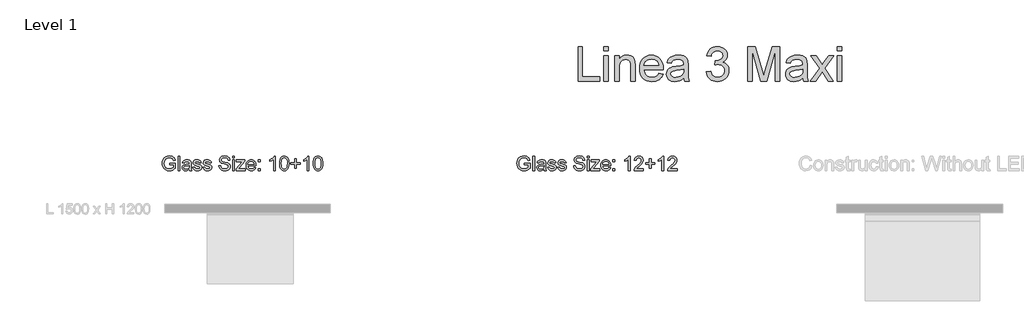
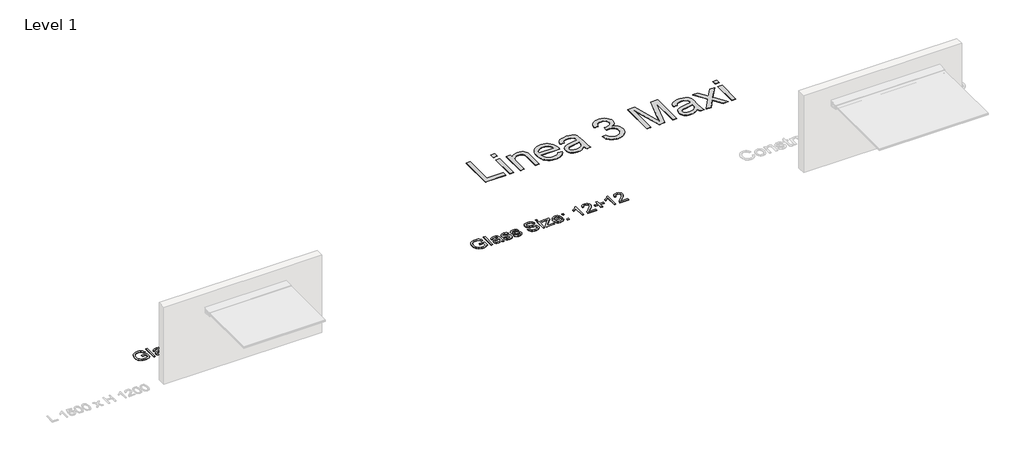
# One storey, part 6 of 7: 3 proxies.
"""IFC4 building model written with IfcOpenShell, lengths in millimetres."""

from ifc_helpers import new_model, si_unit, origin, origin_with_axes, place, context, project, spatial, polyline, outline, extrude, element, save

model = new_model("IFC4")

# Units and contexts
model_context = context("Model", 3, world=origin())
ifc_project = project(units=[si_unit("LENGTHUNIT", "METRE", prefix="MILLI")], contexts=[model_context])

# Site, building, storey
site = spatial("IfcSite", under=ifc_project)
building = spatial("IfcBuilding", under=site)
storey = spatial("IfcBuildingStorey", under=building, Name="Level 1", Elevation=0.0)

# Proxies
placement = place(None, origin())
element("IfcBuildingElementProxy", 1, Name="600mm Arial", ObjectType="600mm Arial", at=placement, inside=storey, context=model_context, shape_type="SweptSolid", body=[
    extrude(outline(polyline([(11563.2291766, 2864.8889799), (11563.2291766, 3467.6268408), (11638.5714092, 3467.6268408), (11638.5714092, 2940.2312125), (11939.9403397, 2940.2312125), (11939.9403397, 2864.8889799), (11563.2291766, 2864.8889799)])), origin_with_axes(), (0.0, 0.0, 1.0), 5.0),
    extrude(outline(polyline([(12015.2825723, 2864.8889799), (12015.2825723, 3307.5245965), (12090.6248049, 3307.5245965), (12090.6248049, 2864.8889799), (12015.2825723, 2864.8889799)])), origin_with_axes(), (0.0, 0.0, 1.0), 5.0),
    extrude(outline(polyline([(12015.2825723, 3392.2846082), (12015.2825723, 3467.6268408), (12090.6248049, 3467.6268408), (12090.6248049, 3392.2846082), (12015.2825723, 3392.2846082)])), origin_with_axes(), (0.0, 0.0, 1.0), 5.0),
    extrude(outline(polyline([(12203.6381538, 2864.8889799), (12203.6381538, 3307.5245965), (12278.9803864, 3307.5245965), (12278.9803864, 3245.7204213), (12305.1551904, 3276.8800263), (12336.5907069, 3299.136887), (12373.2869359, 3312.4910034), (12415.2438774, 3316.9423756), (12452.3815649, 3313.3555261), (12486.3922553, 3302.5949777), (12514.7559571, 3286.0034998), (12534.9526787, 3264.9238614), (12548.656283, 3239.4112451), (12557.5406332, 3209.520833), (12561.5137587, 3136.6801979), (12561.5137587, 2864.8889799), (12486.1715261, 2864.8889799), (12486.1715261, 3126.5266549), (12484.0010223, 3165.4853581), (12477.489511, 3193.1868724), (12465.4781639, 3213.034106), (12446.8081526, 3228.4299675), (12422.8774288, 3238.3075991), (12395.0839441, 3241.6001429), (12372.2062825, 3239.7515359), (12350.9564988, 3234.2057148), (12331.3345929, 3224.9626797), (12313.3405648, 3212.0224305), (12298.3079868, 3193.9134393), (12287.570431, 3169.1641781), (12281.1278976, 3137.7746469), (12278.9803864, 3099.7448456), (12278.9803864, 2864.8889799), (12203.6381538, 2864.8889799)])), origin_with_axes(), (0.0, 0.0, 1.0), 5.0),
    extrude(outline(polyline([(12975.0131213, 2996.737887), (13048.8838259, 2987.3201079), (13037.557659, 2957.7331984), (13022.2675636, 2931.659562), (13003.0135397, 2909.0991987), (12979.7955872, 2890.0521084), (12952.8528296, 2874.9229613), (12922.4243901, 2864.1164277), (12888.5102687, 2857.6325075), (12851.1104653, 2855.4712008), (12804.3618608, 2859.2006045), (12762.7084219, 2870.3888157), (12726.1501486, 2889.0358343), (12694.687041, 2915.1416604), (12669.3859568, 2947.979727), (12651.3137538, 2986.8234672), (12640.4704319, 3031.6728809), (12636.8559913, 3082.5279682), (12640.5072201, 3135.1075024), (12651.4609065, 3181.4514367), (12669.7170506, 3221.5597713), (12695.2756522, 3255.432506), (12726.6559864, 3282.3430739), (12762.3773281, 3301.5649082), (12802.4396774, 3313.0980087), (12846.8430342, 3316.9423756), (12889.8162497, 3313.1072058), (12928.678384, 3301.6016964), (12963.429437, 3282.4258474), (12994.0694087, 3255.5796588), (13019.0807858, 3221.7805005), (13036.9460552, 3181.7457423), (13047.6652168, 3135.4753844), (13051.2382707, 3082.9694266), (13050.7968123, 3062.6623405), (12712.198224, 3062.6623405), (12716.5622241, 3032.5971844), (12725.2396407, 3006.2660306), (12738.2304736, 2983.6688791), (12755.534723, 2964.8057298), (12776.1958955, 2949.9341001), (12799.2574981, 2939.3115075), (12824.7195307, 2932.9379519), (12852.5819933, 2930.8134334), (12892.6811308, 2934.7497708), (12926.4526979, 2946.5587828), (12953.8966948, 2966.9762335), (12975.0131213, 2996.737887)]), holes=[polyline([(12712.198224, 3138.0045731), (12975.8960381, 3138.0045731), (12965.7057068, 3177.809405), (12956.9409183, 3193.4627839), (12945.7297145, 3206.2834714), (12925.1835051, 3221.7345152), (12901.8046043, 3232.7709751), (12875.5930121, 3239.392851), (12846.5487286, 3241.6001429), (12820.0566264, 3239.8389079), (12795.7626192, 3234.5552027), (12773.6667068, 3225.7490275), (12753.7688894, 3213.4203821), (12737.0716454, 3198.1394837), (12724.5774531, 3180.4765494), (12716.2863126, 3160.4315792), (12712.198224, 3138.0045731)])]), origin_with_axes(), (0.0, 0.0, 1.0), 5.0),
    extrude(outline(polyline([(13409.1138756, 2921.3956543), (13373.1166224, 2890.5303549), (13336.0525114, 2870.3336334), (13297.075414, 2859.186809), (13255.3392016, 2855.4712008), (13221.7929622, 2857.7060839), (13192.3761982, 2864.4107333), (13167.0889095, 2875.5851489), (13145.9310963, 2891.2293307), (13129.2246552, 2910.3499974), (13117.2914829, 2931.9538676), (13110.1315796, 2956.0409412), (13107.7449452, 2982.6112183), (13111.3501887, 3013.8443997), (13122.1659194, 3042.2081016), (13138.8493679, 3066.4883132), (13160.0577649, 3085.4710242), (13184.9817701, 3099.818422), (13212.812043, 3110.1926943), (13278.0007325, 3121.5234597), (13355.0352223, 3133.4428364), (13408.6724172, 3147.4223522), (13409.1138756, 3164.1977712), (13403.9267395, 3197.8221855), (13397.4428193, 3210.2749911), (13388.3653311, 3219.8215288), (13372.675164, 3229.3496725), (13353.5636943, 3236.1554894), (13305.0768474, 3241.6001429), (13260.195244, 3237.9765053), (13228.851698, 3227.1055923), (13207.4777541, 3207.0008413), (13192.5049569, 3175.6756894), (13117.1627242, 3185.0934685), (13130.2409292, 3226.2962519), (13149.757069, 3258.6698675), (13177.5321597, 3283.4283258), (13215.387217, 3301.7856374), (13261.685166, 3313.153191), (13314.7889321, 3316.9423756), (13365.7221943, 3313.5946494), (13406.0972433, 3303.5514709), (13436.5394784, 3288.449915), (13457.674299, 3269.9270566), (13471.690603, 3247.0264024), (13480.7772883, 3218.7914592), (13484.4561082, 3152.8670057), (13484.4561082, 3059.1306733), (13488.282081, 2928.2382595), (13493.9474637, 2895.883038), (13503.2916664, 2864.8889799), (13427.9494338, 2864.8889799), (13415.8829043, 2891.0821779), (13409.1138756, 2921.3956543)]), holes=[polyline([(13409.1138756, 3072.0801196), (13358.4933131, 3059.5353435), (13287.5656644, 3048.9771303), (13222.7448569, 3036.763448), (13205.8774674, 3028.4125267), (13193.3878736, 3016.8978203), (13185.6623517, 3003.1022455), (13183.0871778, 2987.9087191), (13188.6973782, 2965.5047056), (13205.5279795, 2947.147394), (13233.2110996, 2934.8969236), (13271.3788566, 2930.8134334), (13311.8458761, 2935.3199879), (13347.604006, 2948.8396512), (13376.5931072, 2968.7604612), (13396.7530406, 2992.4704558), (13405.6925731, 3016.8978203), (13408.6724172, 3050.7429638), (13409.1138756, 3072.0801196)])]), origin_with_axes(), (0.0, 0.0, 1.0), 5.0),
    extrude(outline(polyline([(13804.6605968, 3024.9912242), (13880.0028294, 3034.4090033), (13896.8702189, 2987.0625905), (13908.2423711, 2969.1559344), (13921.5734949, 2955.0936451), (13937.167093, 2944.4710525), (13955.326668, 2936.8834863), (13976.0522199, 2932.3309467), (13999.3437487, 2930.8134334), (14026.6405927, 2932.9011637), (14050.9943808, 2939.1643547), (14072.4051129, 2949.6030063), (14090.8727891, 2964.2171186), (14105.7444187, 2981.9122426), (14116.3670113, 3001.5939293), (14122.7405669, 3023.2621788), (14124.8650854, 3046.9169911), (14122.758961, 3069.4451648), (14116.4405877, 3089.9407904), (14105.9099656, 3108.4038681), (14091.1670947, 3124.8343977), (14073.1776651, 3138.3218713), (14052.9073672, 3147.9557811), (14030.3562009, 3153.7361269), (14005.5241662, 3155.6629089), (13981.7222011, 3153.6027697), (13952.6963117, 3147.4223522), (13961.0840212, 3222.7645848), (13973.1505506, 3221.881668), (14018.2896714, 3227.2895333), (14058.6463263, 3243.5131293), (14075.2561984, 3255.7819939), (14087.1203927, 3270.9571262), (14094.2389093, 3289.0385262), (14096.6117482, 3310.026194), (14094.8918999, 3327.063729), (14089.7323549, 3342.5653565), (14081.1331133, 3356.5310768), (14069.094175, 3368.9608897), (14054.342107, 3379.1650165), (14037.6034762, 3386.4536785), (13998.1665263, 3392.2846082), (13977.5099523, 3390.8130802), (13958.656, 3386.3984962), (13941.6046695, 3379.0408563), (13926.3559608, 3368.7401605), (13913.286953, 3355.4964087), (13902.7747249, 3339.3096009), (13894.8192768, 3320.1797371), (13889.4206085, 3298.1068174), (13814.0783759, 3307.5245965), (13823.0087113, 3343.4942586), (13836.2616602, 3375.1780954), (13853.8372225, 3402.576107), (13875.7353983, 3425.6882933), (13901.2664088, 3444.0364078), (13929.7404752, 3457.1422039), (13961.1575976, 3465.0056816), (13995.5177759, 3467.6268408), (14042.8825828, 3462.4580988), (14086.3846287, 3446.9518727), (14123.0624637, 3422.48772), (14149.9546375, 3390.4451982), (14166.454145, 3353.52824), (14171.9539808, 3314.440778), (14166.7300565, 3278.0204605), (14151.0582835, 3244.9846573), (14125.159391, 3216.8416847), (14089.2541083, 3195.0998588), (14114.3620545, 3187.2455782), (14136.4165801, 3176.0435714), (14155.4176851, 3161.4938385), (14171.3653696, 3143.5963794), (14183.9837221, 3122.7926526), (14192.9968309, 3099.5241164), (14198.4046963, 3073.7907708), (14200.207318, 3045.5926159), (14196.6020745, 3007.3696766), (14185.7863438, 2972.1633697), (14167.7601261, 2939.9736951), (14142.5234212, 2910.8006529), (14111.7776835, 2886.5940176), (14077.2243671, 2869.3035638), (14038.863472, 2858.9292916), (13996.6949983, 2855.4712008), (13958.5824236, 2858.4234538), (13923.8543633, 2867.2802129), (13892.5108173, 2882.0414779), (13864.5517856, 2902.707249), (13841.1085055, 2928.0635155), (13823.312214, 2956.8962669), (13811.1629111, 2989.2055031), (13804.6605968, 3024.9912242)])), origin_with_axes(), (0.0, 0.0, 1.0), 5.0),
    extrude(outline(polyline([(14529.8295857, 2864.8889799), (14529.8295857, 3467.6268408), (14659.0297424, 3467.6268408), (14782.6380928, 3042.7967128), (14807.6540685, 2954.0635755), (14834.5830305, 3050.1543527), (14955.8369361, 3467.6268408), (15085.4785512, 3467.6268408), (15085.4785512, 2864.8889799), (15010.1363186, 2864.8889799), (15010.1363186, 3392.2846082), (14858.7160894, 2864.8889799), (14756.7392003, 2864.8889799), (14605.1718183, 3392.2846082), (14605.1718183, 2864.8889799), (14529.8295857, 2864.8889799)])), origin_with_axes(), (0.0, 0.0, 1.0), 5.0),
    extrude(outline(polyline([(15490.4430515, 2921.3956543), (15454.4457983, 2890.5303549), (15417.3816873, 2870.3336334), (15378.4045899, 2859.186809), (15336.6683775, 2855.4712008), (15303.1221381, 2857.7060839), (15273.7053741, 2864.4107333), (15248.4180854, 2875.5851489), (15227.2602722, 2891.2293307), (15210.5538311, 2910.3499974), (15198.6206589, 2931.9538676), (15191.4607555, 2956.0409412), (15189.0741211, 2982.6112183), (15192.6793646, 3013.8443997), (15203.4950953, 3042.2081016), (15220.1785438, 3066.4883132), (15241.3869408, 3085.4710242), (15266.310946, 3099.818422), (15294.1412189, 3110.1926943), (15359.3299084, 3121.5234597), (15436.3643982, 3133.4428364), (15490.0015931, 3147.4223522), (15490.4430515, 3164.1977712), (15485.2559154, 3197.8221855), (15478.7719952, 3210.2749911), (15469.694507, 3219.8215288), (15454.0043399, 3229.3496725), (15434.8928703, 3236.1554894), (15386.4060233, 3241.6001429), (15341.5244199, 3237.9765053), (15310.1808739, 3227.1055923), (15288.80693, 3207.0008413), (15273.8341328, 3175.6756894), (15198.4919002, 3185.0934685), (15211.5701051, 3226.2962519), (15231.0862449, 3258.6698675), (15258.8613356, 3283.4283258), (15296.7163929, 3301.7856374), (15343.014342, 3313.153191), (15396.118108, 3316.9423756), (15447.0513702, 3313.5946494), (15487.4264192, 3303.5514709), (15517.8686543, 3288.449915), (15539.0034749, 3269.9270566), (15553.0197789, 3247.0264024), (15562.1064642, 3218.7914592), (15565.7852841, 3152.8670057), (15565.7852841, 3059.1306733), (15569.6112569, 2928.2382595), (15575.2766396, 2895.883038), (15584.6208423, 2864.8889799), (15509.2786097, 2864.8889799), (15497.2120802, 2891.0821779), (15490.4430515, 2921.3956543)]), holes=[polyline([(15490.4430515, 3072.0801196), (15439.822489, 3059.5353435), (15368.8948403, 3048.9771303), (15304.0740328, 3036.763448), (15287.2066433, 3028.4125267), (15274.7170496, 3016.8978203), (15266.9915277, 3003.1022455), (15264.4163537, 2987.9087191), (15270.0265541, 2965.5047056), (15286.8571554, 2947.147394), (15314.5402755, 2934.8969236), (15352.7080325, 2930.8134334), (15393.175052, 2935.3199879), (15428.9331819, 2948.8396512), (15457.9222832, 2968.7604612), (15478.0822165, 2992.4704558), (15487.021749, 3016.8978203), (15490.0015931, 3050.7429638), (15490.4430515, 3072.0801196)])]), origin_with_axes(), (0.0, 0.0, 1.0), 5.0),
    extrude(outline(polyline([(15622.2919586, 2864.8889799), (15783.2771197, 3087.5311634), (15631.7097377, 3307.5245965), (15722.0615557, 3307.5245965), (15795.1964963, 3201.4274291), (15829.4830983, 3151.5426305), (15859.2079635, 3192.4511084), (15942.4964472, 3307.5245965), (16033.1425708, 3307.5245965), (15873.9232433, 3087.3840106), (16027.2564589, 2864.8889799), (15936.7574881, 2864.8889799), (15844.3455309, 2998.7980261), (15827.5701119, 3023.3725434), (15712.9380822, 2864.8889799), (15622.2919586, 2864.8889799)])), origin_with_axes(), (0.0, 0.0, 1.0), 5.0),
    extrude(outline(polyline([(16093.1809124, 3392.2846082), (16093.1809124, 3467.6268408), (16168.523145, 3467.6268408), (16168.523145, 3392.2846082), (16093.1809124, 3392.2846082)])), origin_with_axes(), (0.0, 0.0, 1.0), 5.0),
    extrude(outline(polyline([(16093.1809124, 2864.8889799), (16093.1809124, 3307.5245965), (16168.523145, 3307.5245965), (16168.523145, 2864.8889799), (16093.1809124, 2864.8889799)])), origin_with_axes(), (0.0, 0.0, 1.0), 5.0),
])
element("IfcBuildingElementProxy", 2, Name="600mm Arial 2", ObjectType="600mm Arial 2", at=placement, inside=storey, context=model_context, shape_type="SweptSolid", body=[
    extrude(outline(polyline([(4422.5294323, 1398.8329866), (4422.5294323, 1430.2255835), (4524.5553723, 1430.2255835), (4524.5553723, 1336.3543611), (4499.7616587, 1319.1098925), (4474.1861958, 1306.7398605), (4447.8902973, 1299.2902501), (4420.935277, 1296.8070466), (4385.7182402, 1300.7541138), (4353.8887834, 1312.5953155), (4327.447265, 1331.9167845), (4308.3940433, 1358.3046534), (4296.8747383, 1389.9578334), (4293.03497, 1425.0752356), (4296.8594099, 1460.4455566), (4308.3327296, 1493.3480025), (4326.9797483, 1520.9468164), (4352.3252849, 1540.4062411), (4383.1967156, 1551.9485387), (4418.4214167, 1555.7959712), (4444.2804553, 1553.5656866), (4467.533663, 1546.8748328), (4487.1157151, 1536.2062549), (4501.9612864, 1522.0427981), (4512.9440968, 1503.7023478), (4520.937866, 1480.5027895), (4491.9978157, 1472.3480719), (4477.6810747, 1501.3800927), (4467.2884084, 1510.7917404), (4453.2169221, 1518.1187235), (4436.4399702, 1522.8322116), (4417.9309074, 1524.4033743), (4396.2641907, 1522.7095842), (4377.7397994, 1517.6282142), (4362.4267113, 1509.7953934), (4350.3939044, 1499.8472511), (4334.2377535, 1475.6590099), (4326.8801136, 1451.961278), (4324.4275669, 1426.3628226), (4327.3782871, 1396.3421189), (4336.2304476, 1371.6403758), (4350.7158012, 1352.4338699), (4370.5661005, 1338.8988782), (4393.7963156, 1330.8744522), (4418.4214167, 1328.1996435), (4440.1647754, 1330.2153303), (4461.3716396, 1336.2623906), (4493.1627754, 1353.4608738), (4493.1627754, 1398.8329866), (4422.5294323, 1398.8329866)])), origin_with_axes(), (0.0, 0.0, 1.0), 5.0),
    extrude(outline(polyline([(4571.6442677, 1300.7311212), (4571.6442677, 1551.8718966), (4603.0368646, 1551.8718966), (4603.0368646, 1300.7311212), (4571.6442677, 1300.7311212)])), origin_with_axes(), (0.0, 0.0, 1.0), 5.0),
    extrude(outline(polyline([(4767.8479984, 1324.2755689), (4752.8491429, 1311.4150275), (4737.4057633, 1302.9997268), (4721.1653061, 1298.3552166), (4703.7752176, 1296.8070466), (4677.5406328, 1300.5318518), (4658.188507, 1311.7062674), (4646.2553348, 1328.6748244), (4642.2776108, 1349.7820539), (4643.7797956, 1362.7958795), (4648.28635, 1374.6140886), (4664.074619, 1392.6403063), (4686.0555682, 1402.9410022), (4713.2175222, 1407.6621545), (4767.6640574, 1418.4533597), (4767.8479984, 1425.4431176), (4765.6866917, 1439.4532902), (4759.2027716, 1448.6196833), (4744.7020896, 1455.4255002), (4724.4992367, 1457.6941058), (4705.7985686, 1456.1842568), (4692.7387578, 1451.6547097), (4683.8329478, 1443.2777301), (4677.5942823, 1430.2255835), (4646.2016854, 1434.1496581), (4651.6509374, 1451.3174846), (4659.7826624, 1464.806491), (4671.3556168, 1475.1225153), (4687.1285573, 1482.7713951), (4706.4193695, 1487.5078758), (4728.5459386, 1489.0867027), (4749.7681312, 1487.6918168), (4766.5910683, 1483.5071591), (4779.2753329, 1477.2148442), (4788.0815082, 1469.4969865), (4797.7077537, 1448.1904876), (4799.2405954, 1420.7219653), (4799.2405954, 1381.6651601), (4800.8347507, 1327.1266544), (4807.0887446, 1300.7311212), (4775.6961477, 1300.7311212), (4767.8479984, 1324.2755689)]), holes=[polyline([(4767.8479984, 1387.0607627), (4717.2029104, 1377.4345172), (4690.1942406, 1372.3454829), (4677.9621643, 1364.068138), (4673.6702077, 1351.9893459), (4676.0077912, 1342.6543402), (4683.0205417, 1335.0054604), (4694.5551751, 1329.9010977), (4710.4584072, 1328.1996435), (4727.3196653, 1330.0773745), (4742.2188861, 1335.7105676), (4754.2976783, 1344.0109051), (4762.6976505, 1353.8900695), (4766.4224557, 1364.068138), (4767.6640574, 1378.1702812), (4767.8479984, 1387.0607627)])]), origin_with_axes(), (0.0, 0.0, 1.0), 5.0),
    extrude(outline(polyline([(4830.6331923, 1355.6681658), (4862.0257892, 1359.5922404), (4866.9768677, 1346.1645476), (4876.557128, 1336.2930474), (4890.8278837, 1330.2229945), (4909.8504486, 1328.1996435), (4928.6430872, 1330.0543819), (4941.8561822, 1335.6185971), (4949.6736746, 1343.6813441), (4952.2795054, 1353.0316782), (4949.6583461, 1361.0331116), (4941.7948685, 1367.1338213), (4909.4825666, 1376.0856165), (4862.2097302, 1391.4446898), (4850.2459012, 1399.1625475), (4841.5776816, 1409.3789371), (4836.3123706, 1421.4424009), (4834.5572669, 1434.7014811), (4840.1981242, 1458.0926446), (4855.5878543, 1475.9655782), (4875.5454525, 1485.2545986), (4902.5541223, 1489.0867027), (4922.9869015, 1487.5461969), (4940.7525362, 1482.9246793), (4955.0386203, 1475.6743383), (4965.0327479, 1466.2473622), (4971.6546238, 1453.946308), (4975.823953, 1438.0737327), (4944.4313561, 1434.1496581), (4940.4689605, 1444.0288225), (4932.6284754, 1451.4707687), (4920.833259, 1456.1382715), (4905.006669, 1457.6941058), (4886.9804512, 1456.2072494), (4874.9629727, 1451.7466802), (4868.203141, 1445.3087453), (4865.9498638, 1437.8897917), (4869.6899974, 1428.7540555), (4881.4009076, 1421.8256113), (4908.4402343, 1415.1424217), (4954.5174542, 1400.3658282), (4966.6882168, 1393.2994282), (4975.9159235, 1383.6271974), (4981.7330576, 1371.318479), (4983.6721023, 1356.3426161), (4981.3958324, 1340.8609155), (4974.5670229, 1326.2989199), (4963.4462567, 1313.7985962), (4948.2941171, 1304.5019116), (4929.9919878, 1298.7307629), (4909.4212529, 1296.8070466), (4877.7680729, 1300.5165234), (4854.6681493, 1311.6449537), (4839.2477623, 1330.0697103), (4830.6331923, 1355.6681658)])), origin_with_axes(), (0.0, 0.0, 1.0), 5.0),
    extrude(outline(polyline([(5007.21655, 1355.6681658), (5038.6091469, 1359.5922404), (5043.5602254, 1346.1645476), (5053.1404857, 1336.2930474), (5067.4112414, 1330.2229945), (5086.4338063, 1328.1996435), (5105.2264448, 1330.0543819), (5118.4395398, 1335.6185971), (5126.2570322, 1343.6813441), (5128.862863, 1353.0316782), (5126.2417038, 1361.0331116), (5118.3782262, 1367.1338213), (5086.0659243, 1376.0856165), (5038.7930879, 1391.4446898), (5026.8292588, 1399.1625475), (5018.1610393, 1409.3789371), (5012.8957283, 1421.4424009), (5011.1406246, 1434.7014811), (5016.7814818, 1458.0926446), (5032.171212, 1475.9655782), (5052.1288102, 1485.2545986), (5079.13748, 1489.0867027), (5099.5702592, 1487.5461969), (5117.3358939, 1482.9246793), (5131.621978, 1475.6743383), (5141.6161055, 1466.2473622), (5148.2379815, 1453.946308), (5152.4073107, 1438.0737327), (5121.0147138, 1434.1496581), (5117.0523182, 1444.0288225), (5109.2118331, 1451.4707687), (5097.4166167, 1456.1382715), (5081.5900267, 1457.6941058), (5063.5638089, 1456.2072494), (5051.5463304, 1451.7466802), (5044.7864987, 1445.3087453), (5042.5332215, 1437.8897917), (5046.2733551, 1428.7540555), (5057.9842653, 1421.8256113), (5085.0235919, 1415.1424217), (5131.1008118, 1400.3658282), (5143.2715745, 1393.2994282), (5152.4992812, 1383.6271974), (5158.3164153, 1371.318479), (5160.25546, 1356.3426161), (5157.9791901, 1340.8609155), (5151.1503806, 1326.2989199), (5140.0296144, 1313.7985962), (5124.8774748, 1304.5019116), (5106.5753455, 1298.7307629), (5086.0046106, 1296.8070466), (5054.3514306, 1300.5165234), (5031.251507, 1311.6449537), (5015.83112, 1330.0697103), (5007.21655, 1355.6681658)])), origin_with_axes(), (0.0, 0.0, 1.0), 5.0),
    extrude(outline(polyline([(5285.8258476, 1387.0607627), (5317.2184446, 1387.0607627), (5320.8206224, 1369.6400174), (5327.3351994, 1355.637509), (5337.4979396, 1344.524407), (5352.0446068, 1335.7718812), (5369.8255699, 1330.0927029), (5389.6911976, 1328.1996435), (5407.1809208, 1329.6328504), (5422.4940089, 1333.9324713), (5434.902362, 1340.7382882), (5443.6778804, 1349.6900834), (5448.8972062, 1359.9677866), (5450.6369815, 1370.7513276), (5445.4253199, 1390.3410439), (5437.4852002, 1398.0895584), (5424.0881642, 1404.5964712), (5378.3788263, 1416.5832928), (5329.1746094, 1432.0649935), (5313.5472888, 1442.6262724), (5302.4725079, 1455.4255002), (5295.8736246, 1470.1867652), (5293.6739969, 1486.6341561), (5296.3947908, 1505.0205916), (5304.5571726, 1522.1654255), (5317.9465444, 1536.6967643), (5336.3483083, 1547.2427148), (5358.4365564, 1553.6576571), (5382.8853807, 1555.7959712), (5409.3728844, 1553.5580224), (5432.5494501, 1546.844176), (5451.5873433, 1535.7923877), (5465.6588296, 1520.5406133), (5474.5646396, 1502.0392146), (5478.1055038, 1481.2385535), (5446.7129069, 1481.2385535), (5440.9494223, 1499.9698784), (5428.9319438, 1513.4895417), (5410.1546336, 1521.6749161), (5384.111654, 1524.4033743), (5357.4555378, 1521.705573), (5339.1687369, 1513.6121691), (5328.5921296, 1501.7019895), (5325.0665938, 1487.5538611), (5327.5651257, 1475.4903973), (5335.0607213, 1465.7875097), (5352.7803708, 1457.111626), (5386.318946, 1448.2518013), (5441.8691273, 1432.4941891), (5459.7650535, 1421.1051757), (5472.2500487, 1407.0490178), (5479.584696, 1390.4789996), (5482.0295784, 1371.5484053), (5479.216814, 1352.1962795), (5470.7785207, 1333.9937849), (5457.059588, 1318.3281433), (5438.4049051, 1306.5865763), (5415.9717676, 1299.251929), (5390.9174709, 1296.8070466), (5360.1610033, 1299.4435342), (5334.8461235, 1307.3529971), (5314.6815916, 1320.5660921), (5299.3761678, 1339.113476), (5289.5506528, 1361.7075619), (5285.8258476, 1387.0607627)])), origin_with_axes(), (0.0, 0.0, 1.0), 5.0),
    extrude(outline(polyline([(5525.1943992, 1520.4792997), (5525.1943992, 1551.8718966), (5556.5869961, 1551.8718966), (5556.5869961, 1520.4792997), (5525.1943992, 1520.4792997)])), origin_with_axes(), (0.0, 0.0, 1.0), 5.0),
    extrude(outline(polyline([(5525.1943992, 1300.7311212), (5525.1943992, 1485.1626281), (5556.5869961, 1485.1626281), (5556.5869961, 1300.7311212), (5525.1943992, 1300.7311212)])), origin_with_axes(), (0.0, 0.0, 1.0), 5.0),
    extrude(outline(polyline([(5584.0555184, 1300.7311212), (5584.0555184, 1330.2843081), (5692.396766, 1453.7700312), (5660.3297187, 1453.7700312), (5591.9036676, 1453.7700312), (5591.9036676, 1485.1626281), (5737.0944284, 1485.1626281), (5737.0944284, 1458.4911835), (5641.015914, 1348.9236626), (5626.3006342, 1332.1237181), (5662.5983244, 1332.1237181), (5741.018503, 1332.1237181), (5741.018503, 1300.7311212), (5584.0555184, 1300.7311212)])), origin_with_axes(), (0.0, 0.0, 1.0), 5.0),
    extrude(outline(polyline([(5901.5376802, 1355.6681658), (5932.3171405, 1351.7440912), (5921.2270312, 1328.5521971), (5903.5303744, 1311.2157581), (5879.6257089, 1300.4092245), (5849.9115736, 1296.8070466), (5830.4329884, 1298.3609648), (5813.0773888, 1303.0227195), (5797.844775, 1310.7923106), (5784.7351468, 1321.6697381), (5774.1930283, 1335.3522658), (5766.6629438, 1351.5371576), (5762.144893, 1370.2244133), (5760.6388761, 1391.414033), (5762.1602214, 1413.3221722), (5766.7242574, 1432.6321449), (5774.3309841, 1449.3439509), (5784.9804014, 1463.4575904), (5798.0555407, 1474.670327), (5812.9394331, 1482.6794246), (5829.6320786, 1487.4848832), (5848.1334773, 1489.0867027), (5866.0389838, 1487.4887153), (5882.2315397, 1482.6947531), (5896.7111451, 1474.704816), (5909.4778, 1463.5189041), (5919.8992071, 1449.4359214), (5927.3430694, 1432.7547722), (5931.8093867, 1413.4754564), (5933.2981592, 1391.597974), (5933.1142182, 1383.1366881), (5792.031473, 1383.1366881), (5797.4653966, 1359.6382257), (5810.0883476, 1342.3631003), (5828.3061706, 1331.7405077), (5850.5247102, 1328.1996435), (5867.2326842, 1329.8397841), (5881.3041705, 1334.7602058), (5892.7391692, 1343.2674769), (5901.5376802, 1355.6681658)]), holes=[polyline([(5792.031473, 1414.529285), (5901.9055622, 1414.529285), (5897.6595909, 1431.1146317), (5889.3362607, 1442.978826), (5871.0341315, 1454.0152859), (5848.0108499, 1457.6941058), (5826.849971, 1454.7587141), (5809.3525836, 1445.9525388), (5797.1894852, 1432.2259418), (5792.031473, 1414.529285)])]), origin_with_axes(), (0.0, 0.0, 1.0), 5.0),
    extrude(outline(polyline([(5972.5389053, 1453.7700312), (5972.5389053, 1485.1626281), (6003.9315022, 1485.1626281), (6003.9315022, 1453.7700312), (5972.5389053, 1453.7700312)])), origin_with_axes(), (0.0, 0.0, 1.0), 5.0),
    extrude(outline(polyline([(5972.5389053, 1300.7311212), (5972.5389053, 1332.1237181), (6003.9315022, 1332.1237181), (6003.9315022, 1300.7311212), (5972.5389053, 1300.7311212)])), origin_with_axes(), (0.0, 0.0, 1.0), 5.0),
    extrude(outline(polyline([(6270.7685761, 1300.7311212), (6239.3759791, 1300.7311212), (6239.3759791, 1496.4443426), (6209.6388512, 1475.2604711), (6176.5907853, 1459.4108885), (6176.5907853, 1489.0867027), (6201.2465432, 1502.4990671), (6222.6066915, 1518.4559487), (6239.444957, 1535.4245057), (6250.5350663, 1551.8718966), (6270.7685761, 1551.8718966), (6270.7685761, 1300.7311212)])), origin_with_axes(), (0.0, 0.0, 1.0), 5.0),
    extrude(outline(polyline([(6345.3259938, 1424.2781579), (6347.6329204, 1464.4769301), (6354.5537005, 1496.5363131), (6366.019356, 1520.9468164), (6381.9609091, 1538.1989491), (6402.493323, 1548.4536597), (6427.7315607, 1551.8718966), (6447.0760223, 1549.8485456), (6464.3971329, 1543.7784927), (6478.8824864, 1533.8993283), (6489.7196769, 1520.4486428), (6504.4349567, 1483.2925613), (6508.7115849, 1457.5791427), (6510.1371276, 1424.2781579), (6507.8531935, 1384.309312), (6501.0013914, 1352.326571), (6489.6047137, 1327.8930752), (6473.6861532, 1310.5719646), (6453.1077541, 1300.2482761), (6427.7315607, 1296.8070466), (6410.4411069, 1298.3015672), (6395.1126904, 1302.785129), (6381.7463113, 1310.257732), (6370.3419694, 1320.7193763), (6359.3974801, 1339.6308101), (6351.5799877, 1363.1944183), (6346.8894922, 1391.4102009), (6345.3259938, 1424.2781579)]), holes=[polyline([(6376.7185907, 1424.3394716), (6380.3974106, 1374.9589779), (6384.9959356, 1358.068979), (6391.4338705, 1346.3791454), (6407.8659329, 1332.744519), (6427.7315607, 1328.1996435), (6447.5971884, 1332.7598474), (6464.0292509, 1346.4404591), (6470.4671858, 1358.1494532), (6475.0657107, 1375.03562), (6478.7445307, 1424.3394716), (6475.1883381, 1472.608655), (6470.7430973, 1489.4430884), (6464.5197602, 1501.4107496), (6448.1183546, 1515.7121621), (6427.3636787, 1520.4792997), (6407.7126488, 1516.2793135), (6391.9243798, 1503.6793552), (6385.2718471, 1490.6502012), (6380.520038, 1473.0838359), (6376.7185907, 1424.3394716)])]), origin_with_axes(), (0.0, 0.0, 1.0), 5.0),
    extrude(outline(polyline([(6608.238993, 1339.9718674), (6608.238993, 1406.6811358), (6541.5297245, 1406.6811358), (6541.5297245, 1438.0737327), (6608.238993, 1438.0737327), (6608.238993, 1504.7830012), (6639.6315899, 1504.7830012), (6639.6315899, 1438.0737327), (6706.3408584, 1438.0737327), (6706.3408584, 1406.6811358), (6639.6315899, 1406.6811358), (6639.6315899, 1339.9718674), (6608.238993, 1339.9718674)])), origin_with_axes(), (0.0, 0.0, 1.0), 5.0),
    extrude(outline(polyline([(6859.3797684, 1300.7311212), (6827.9871714, 1300.7311212), (6827.9871714, 1496.4443426), (6798.2500435, 1475.2604711), (6765.2019776, 1459.4108885), (6765.2019776, 1489.0867027), (6789.8577355, 1502.4990671), (6811.2178838, 1518.4559487), (6828.0561493, 1535.4245057), (6839.1462586, 1551.8718966), (6859.3797684, 1551.8718966), (6859.3797684, 1300.7311212)])), origin_with_axes(), (0.0, 0.0, 1.0), 5.0),
    extrude(outline(polyline([(6933.937186, 1424.2781579), (6936.2441127, 1464.4769301), (6943.1648928, 1496.5363131), (6954.6305483, 1520.9468164), (6970.5721014, 1538.1989491), (6991.1045152, 1548.4536597), (7016.342753, 1551.8718966), (7035.6872145, 1549.8485456), (7053.0083251, 1543.7784927), (7067.4936787, 1533.8993283), (7078.3308691, 1520.4486428), (7093.046149, 1483.2925613), (7097.3227771, 1457.5791427), (7098.7483199, 1424.2781579), (7096.4643858, 1384.309312), (7089.6125837, 1352.326571), (7078.215906, 1327.8930752), (7062.2973455, 1310.5719646), (7041.7189464, 1300.2482761), (7016.342753, 1296.8070466), (6999.0522992, 1298.3015672), (6983.7238827, 1302.785129), (6970.3575036, 1310.257732), (6958.9531617, 1320.7193763), (6948.0086724, 1339.6308101), (6940.19118, 1363.1944183), (6935.5006845, 1391.4102009), (6933.937186, 1424.2781579)]), holes=[polyline([(6965.329783, 1424.3394716), (6969.0086029, 1374.9589779), (6973.6071279, 1358.068979), (6980.0450628, 1346.3791454), (6996.4771252, 1332.744519), (7016.342753, 1328.1996435), (7036.2083807, 1332.7598474), (7052.6404432, 1346.4404591), (7059.0783781, 1358.1494532), (7063.676903, 1375.03562), (7067.355723, 1424.3394716), (7063.7995303, 1472.608655), (7059.3542896, 1489.4430884), (7053.1309525, 1501.4107496), (7036.7295469, 1515.7121621), (7015.974871, 1520.4792997), (6996.3238411, 1516.2793135), (6980.5355721, 1503.6793552), (6973.8830393, 1490.6502012), (6969.1312302, 1473.0838359), (6965.329783, 1424.3394716)])]), origin_with_axes(), (0.0, 0.0, 1.0), 5.0),
])
element("IfcBuildingElementProxy", 3, Name="600mm Arial 2", ObjectType="600mm Arial 2", at=placement, inside=storey, context=model_context, shape_type="SweptSolid", body=[
    extrude(outline(polyline([(10622.5294323, 1398.8329866), (10622.5294323, 1430.2255835), (10724.5553723, 1430.2255835), (10724.5553723, 1336.3543611), (10699.7616587, 1319.1098925), (10674.1861958, 1306.7398605), (10647.8902973, 1299.2902501), (10620.935277, 1296.8070466), (10585.7182402, 1300.7541138), (10553.8887834, 1312.5953155), (10527.447265, 1331.9167845), (10508.3940433, 1358.3046534), (10496.8747383, 1389.9578334), (10493.03497, 1425.0752356), (10496.8594099, 1460.4455566), (10508.3327296, 1493.3480025), (10526.9797483, 1520.9468164), (10552.3252849, 1540.4062411), (10583.1967156, 1551.9485387), (10618.4214167, 1555.7959712), (10644.2804553, 1553.5656866), (10667.533663, 1546.8748328), (10687.1157151, 1536.2062549), (10701.9612864, 1522.0427981), (10712.9440968, 1503.7023478), (10720.937866, 1480.5027895), (10691.9978157, 1472.3480719), (10677.6810747, 1501.3800927), (10667.2884084, 1510.7917404), (10653.2169221, 1518.1187235), (10636.4399702, 1522.8322116), (10617.9309074, 1524.4033743), (10596.2641907, 1522.7095842), (10577.7397994, 1517.6282142), (10562.4267113, 1509.7953934), (10550.3939044, 1499.8472511), (10534.2377535, 1475.6590099), (10526.8801136, 1451.961278), (10524.4275669, 1426.3628226), (10527.3782871, 1396.3421189), (10536.2304476, 1371.6403758), (10550.7158012, 1352.4338699), (10570.5661005, 1338.8988782), (10593.7963156, 1330.8744522), (10618.4214167, 1328.1996435), (10640.1647754, 1330.2153303), (10661.3716396, 1336.2623906), (10693.1627754, 1353.4608738), (10693.1627754, 1398.8329866), (10622.5294323, 1398.8329866)])), origin_with_axes(), (0.0, 0.0, 1.0), 5.0),
    extrude(outline(polyline([(10771.6442677, 1300.7311212), (10771.6442677, 1551.8718966), (10803.0368646, 1551.8718966), (10803.0368646, 1300.7311212), (10771.6442677, 1300.7311212)])), origin_with_axes(), (0.0, 0.0, 1.0), 5.0),
    extrude(outline(polyline([(10967.8479984, 1324.2755689), (10952.8491429, 1311.4150275), (10937.4057633, 1302.9997268), (10921.1653061, 1298.3552166), (10903.7752176, 1296.8070466), (10877.5406328, 1300.5318518), (10858.188507, 1311.7062674), (10846.2553348, 1328.6748244), (10842.2776108, 1349.7820539), (10843.7797956, 1362.7958795), (10848.28635, 1374.6140886), (10864.074619, 1392.6403063), (10886.0555682, 1402.9410022), (10913.2175222, 1407.6621545), (10967.6640574, 1418.4533597), (10967.8479984, 1425.4431176), (10965.6866917, 1439.4532902), (10959.2027716, 1448.6196833), (10944.7020896, 1455.4255002), (10924.4992367, 1457.6941058), (10905.7985686, 1456.1842568), (10892.7387578, 1451.6547097), (10883.8329478, 1443.2777301), (10877.5942823, 1430.2255835), (10846.2016854, 1434.1496581), (10851.6509374, 1451.3174846), (10859.7826624, 1464.806491), (10871.3556168, 1475.1225153), (10887.1285573, 1482.7713951), (10906.4193695, 1487.5078758), (10928.5459386, 1489.0867027), (10949.7681312, 1487.6918168), (10966.5910683, 1483.5071591), (10979.2753329, 1477.2148442), (10988.0815082, 1469.4969865), (10997.7077537, 1448.1904876), (10999.2405954, 1420.7219653), (10999.2405954, 1381.6651601), (11000.8347507, 1327.1266544), (11007.0887446, 1300.7311212), (10975.6961477, 1300.7311212), (10967.8479984, 1324.2755689)]), holes=[polyline([(10967.8479984, 1387.0607627), (10917.2029104, 1377.4345172), (10890.1942406, 1372.3454829), (10877.9621643, 1364.068138), (10873.6702077, 1351.9893459), (10876.0077912, 1342.6543402), (10883.0205417, 1335.0054604), (10894.5551751, 1329.9010977), (10910.4584072, 1328.1996435), (10927.3196653, 1330.0773745), (10942.2188861, 1335.7105676), (10954.2976783, 1344.0109051), (10962.6976505, 1353.8900695), (10966.4224557, 1364.068138), (10967.6640574, 1378.1702812), (10967.8479984, 1387.0607627)])]), origin_with_axes(), (0.0, 0.0, 1.0), 5.0),
    extrude(outline(polyline([(11030.6331923, 1355.6681658), (11062.0257892, 1359.5922404), (11066.9768677, 1346.1645476), (11076.557128, 1336.2930474), (11090.8278837, 1330.2229945), (11109.8504486, 1328.1996435), (11128.6430872, 1330.0543819), (11141.8561822, 1335.6185971), (11149.6736746, 1343.6813441), (11152.2795054, 1353.0316782), (11149.6583461, 1361.0331116), (11141.7948685, 1367.1338213), (11109.4825666, 1376.0856165), (11062.2097302, 1391.4446898), (11050.2459012, 1399.1625475), (11041.5776816, 1409.3789371), (11036.3123706, 1421.4424009), (11034.5572669, 1434.7014811), (11040.1981242, 1458.0926446), (11055.5878543, 1475.9655782), (11075.5454525, 1485.2545986), (11102.5541223, 1489.0867027), (11122.9869015, 1487.5461969), (11140.7525362, 1482.9246793), (11155.0386203, 1475.6743383), (11165.0327479, 1466.2473622), (11171.6546238, 1453.946308), (11175.823953, 1438.0737327), (11144.4313561, 1434.1496581), (11140.4689605, 1444.0288225), (11132.6284754, 1451.4707687), (11120.833259, 1456.1382715), (11105.006669, 1457.6941058), (11086.9804512, 1456.2072494), (11074.9629727, 1451.7466802), (11068.203141, 1445.3087453), (11065.9498638, 1437.8897917), (11069.6899974, 1428.7540555), (11081.4009076, 1421.8256113), (11108.4402343, 1415.1424217), (11154.5174542, 1400.3658282), (11166.6882168, 1393.2994282), (11175.9159235, 1383.6271974), (11181.7330576, 1371.318479), (11183.6721023, 1356.3426161), (11181.3958324, 1340.8609155), (11174.5670229, 1326.2989199), (11163.4462567, 1313.7985962), (11148.2941171, 1304.5019116), (11129.9919878, 1298.7307629), (11109.4212529, 1296.8070466), (11077.7680729, 1300.5165234), (11054.6681493, 1311.6449537), (11039.2477623, 1330.0697103), (11030.6331923, 1355.6681658)])), origin_with_axes(), (0.0, 0.0, 1.0), 5.0),
    extrude(outline(polyline([(11207.21655, 1355.6681658), (11238.6091469, 1359.5922404), (11243.5602254, 1346.1645476), (11253.1404857, 1336.2930474), (11267.4112414, 1330.2229945), (11286.4338063, 1328.1996435), (11305.2264448, 1330.0543819), (11318.4395398, 1335.6185971), (11326.2570322, 1343.6813441), (11328.862863, 1353.0316782), (11326.2417038, 1361.0331116), (11318.3782262, 1367.1338213), (11286.0659243, 1376.0856165), (11238.7930879, 1391.4446898), (11226.8292588, 1399.1625475), (11218.1610393, 1409.3789371), (11212.8957283, 1421.4424009), (11211.1406246, 1434.7014811), (11216.7814818, 1458.0926446), (11232.171212, 1475.9655782), (11252.1288102, 1485.2545986), (11279.13748, 1489.0867027), (11299.5702592, 1487.5461969), (11317.3358939, 1482.9246793), (11331.621978, 1475.6743383), (11341.6161055, 1466.2473622), (11348.2379815, 1453.946308), (11352.4073107, 1438.0737327), (11321.0147138, 1434.1496581), (11317.0523182, 1444.0288225), (11309.2118331, 1451.4707687), (11297.4166167, 1456.1382715), (11281.5900267, 1457.6941058), (11263.5638089, 1456.2072494), (11251.5463304, 1451.7466802), (11244.7864987, 1445.3087453), (11242.5332215, 1437.8897917), (11246.2733551, 1428.7540555), (11257.9842653, 1421.8256113), (11285.0235919, 1415.1424217), (11331.1008118, 1400.3658282), (11343.2715745, 1393.2994282), (11352.4992812, 1383.6271974), (11358.3164153, 1371.318479), (11360.25546, 1356.3426161), (11357.9791901, 1340.8609155), (11351.1503806, 1326.2989199), (11340.0296144, 1313.7985962), (11324.8774748, 1304.5019116), (11306.5753455, 1298.7307629), (11286.0046106, 1296.8070466), (11254.3514306, 1300.5165234), (11231.251507, 1311.6449537), (11215.83112, 1330.0697103), (11207.21655, 1355.6681658)])), origin_with_axes(), (0.0, 0.0, 1.0), 5.0),
    extrude(outline(polyline([(11485.8258476, 1387.0607627), (11517.2184446, 1387.0607627), (11520.8206224, 1369.6400174), (11527.3351994, 1355.637509), (11537.4979396, 1344.524407), (11552.0446068, 1335.7718812), (11569.8255699, 1330.0927029), (11589.6911976, 1328.1996435), (11607.1809208, 1329.6328504), (11622.4940089, 1333.9324713), (11634.902362, 1340.7382882), (11643.6778804, 1349.6900834), (11648.8972062, 1359.9677866), (11650.6369815, 1370.7513276), (11645.4253199, 1390.3410439), (11637.4852002, 1398.0895584), (11624.0881642, 1404.5964712), (11578.3788263, 1416.5832928), (11529.1746094, 1432.0649935), (11513.5472888, 1442.6262724), (11502.4725079, 1455.4255002), (11495.8736246, 1470.1867652), (11493.6739969, 1486.6341561), (11496.3947908, 1505.0205916), (11504.5571726, 1522.1654255), (11517.9465444, 1536.6967643), (11536.3483083, 1547.2427148), (11558.4365564, 1553.6576571), (11582.8853807, 1555.7959712), (11609.3728844, 1553.5580224), (11632.5494501, 1546.844176), (11651.5873433, 1535.7923877), (11665.6588296, 1520.5406133), (11674.5646396, 1502.0392146), (11678.1055038, 1481.2385535), (11646.7129069, 1481.2385535), (11640.9494223, 1499.9698784), (11628.9319438, 1513.4895417), (11610.1546336, 1521.6749161), (11584.111654, 1524.4033743), (11557.4555378, 1521.705573), (11539.1687369, 1513.6121691), (11528.5921296, 1501.7019895), (11525.0665938, 1487.5538611), (11527.5651257, 1475.4903973), (11535.0607213, 1465.7875097), (11552.7803708, 1457.111626), (11586.318946, 1448.2518013), (11641.8691273, 1432.4941891), (11659.7650535, 1421.1051757), (11672.2500487, 1407.0490178), (11679.584696, 1390.4789996), (11682.0295784, 1371.5484053), (11679.216814, 1352.1962795), (11670.7785207, 1333.9937849), (11657.059588, 1318.3281433), (11638.4049051, 1306.5865763), (11615.9717676, 1299.251929), (11590.9174709, 1296.8070466), (11560.1610033, 1299.4435342), (11534.8461235, 1307.3529971), (11514.6815916, 1320.5660921), (11499.3761678, 1339.113476), (11489.5506528, 1361.7075619), (11485.8258476, 1387.0607627)])), origin_with_axes(), (0.0, 0.0, 1.0), 5.0),
    extrude(outline(polyline([(11725.1943992, 1520.4792997), (11725.1943992, 1551.8718966), (11756.5869961, 1551.8718966), (11756.5869961, 1520.4792997), (11725.1943992, 1520.4792997)])), origin_with_axes(), (0.0, 0.0, 1.0), 5.0),
    extrude(outline(polyline([(11725.1943992, 1300.7311212), (11725.1943992, 1485.1626281), (11756.5869961, 1485.1626281), (11756.5869961, 1300.7311212), (11725.1943992, 1300.7311212)])), origin_with_axes(), (0.0, 0.0, 1.0), 5.0),
    extrude(outline(polyline([(11784.0555184, 1300.7311212), (11784.0555184, 1330.2843081), (11892.396766, 1453.7700312), (11860.3297187, 1453.7700312), (11791.9036676, 1453.7700312), (11791.9036676, 1485.1626281), (11937.0944284, 1485.1626281), (11937.0944284, 1458.4911835), (11841.015914, 1348.9236626), (11826.3006342, 1332.1237181), (11862.5983244, 1332.1237181), (11941.018503, 1332.1237181), (11941.018503, 1300.7311212), (11784.0555184, 1300.7311212)])), origin_with_axes(), (0.0, 0.0, 1.0), 5.0),
    extrude(outline(polyline([(12101.5376802, 1355.6681658), (12132.3171405, 1351.7440912), (12121.2270312, 1328.5521971), (12103.5303744, 1311.2157581), (12079.6257089, 1300.4092245), (12049.9115736, 1296.8070466), (12030.4329884, 1298.3609648), (12013.0773888, 1303.0227195), (11997.844775, 1310.7923106), (11984.7351468, 1321.6697381), (11974.1930283, 1335.3522658), (11966.6629438, 1351.5371576), (11962.144893, 1370.2244133), (11960.6388761, 1391.414033), (11962.1602214, 1413.3221722), (11966.7242574, 1432.6321449), (11974.3309841, 1449.3439509), (11984.9804014, 1463.4575904), (11998.0555407, 1474.670327), (12012.9394331, 1482.6794246), (12029.6320786, 1487.4848832), (12048.1334773, 1489.0867027), (12066.0389838, 1487.4887153), (12082.2315397, 1482.6947531), (12096.7111451, 1474.704816), (12109.4778, 1463.5189041), (12119.8992071, 1449.4359214), (12127.3430694, 1432.7547722), (12131.8093867, 1413.4754564), (12133.2981592, 1391.597974), (12133.1142182, 1383.1366881), (11992.031473, 1383.1366881), (11997.4653966, 1359.6382257), (12010.0883476, 1342.3631003), (12028.3061706, 1331.7405077), (12050.5247102, 1328.1996435), (12067.2326842, 1329.8397841), (12081.3041705, 1334.7602058), (12092.7391692, 1343.2674769), (12101.5376802, 1355.6681658)]), holes=[polyline([(11992.031473, 1414.529285), (12101.9055622, 1414.529285), (12097.6595909, 1431.1146317), (12089.3362607, 1442.978826), (12071.0341315, 1454.0152859), (12048.0108499, 1457.6941058), (12026.849971, 1454.7587141), (12009.3525836, 1445.9525388), (11997.1894852, 1432.2259418), (11992.031473, 1414.529285)])]), origin_with_axes(), (0.0, 0.0, 1.0), 5.0),
    extrude(outline(polyline([(12172.5389053, 1453.7700312), (12172.5389053, 1485.1626281), (12203.9315022, 1485.1626281), (12203.9315022, 1453.7700312), (12172.5389053, 1453.7700312)])), origin_with_axes(), (0.0, 0.0, 1.0), 5.0),
    extrude(outline(polyline([(12172.5389053, 1300.7311212), (12172.5389053, 1332.1237181), (12203.9315022, 1332.1237181), (12203.9315022, 1300.7311212), (12172.5389053, 1300.7311212)])), origin_with_axes(), (0.0, 0.0, 1.0), 5.0),
    extrude(outline(polyline([(12470.7685761, 1300.7311212), (12439.3759791, 1300.7311212), (12439.3759791, 1496.4443426), (12409.6388512, 1475.2604711), (12376.5907853, 1459.4108885), (12376.5907853, 1489.0867027), (12401.2465432, 1502.4990671), (12422.6066915, 1518.4559487), (12439.444957, 1535.4245057), (12450.5350663, 1551.8718966), (12470.7685761, 1551.8718966), (12470.7685761, 1300.7311212)])), origin_with_axes(), (0.0, 0.0, 1.0), 5.0),
    extrude(outline(polyline([(12706.213053, 1332.1237181), (12706.213053, 1300.7311212), (12541.4019191, 1300.7311212), (12544.7741708, 1322.3748452), (12552.5226853, 1339.2897528), (12563.8733777, 1355.6988226), (12603.2060943, 1392.0884833), (12637.0742305, 1422.1781649), (12657.3767181, 1444.3890403), (12667.5164656, 1462.4152581), (12670.8963814, 1479.9509665), (12667.7004066, 1495.6702576), (12658.1124821, 1508.7377326), (12643.3742097, 1517.5439079), (12624.727191, 1520.4792997), (12605.145139, 1517.6128858), (12589.9316857, 1509.0136441), (12580.1138349, 1495.3560251), (12576.7185907, 1477.3144789), (12545.3259938, 1481.2385535), (12552.9365525, 1511.6041465), (12569.3916076, 1533.7843651), (12593.8327677, 1547.3500137), (12625.4016414, 1551.8718966), (12657.2004413, 1546.844176), (12681.5956161, 1531.7610142), (12697.1156378, 1509.228242), (12702.2889784, 1481.8516902), (12696.7094348, 1452.0839054), (12678.1620508, 1421.3044451), (12633.1884769, 1378.2929085), (12597.0747277, 1348.0959281), (12582.9112709, 1332.1237181), (12706.213053, 1332.1237181)])), origin_with_axes(), (0.0, 0.0, 1.0), 5.0),
    extrude(outline(polyline([(12808.238993, 1339.9718674), (12808.238993, 1406.6811358), (12741.5297245, 1406.6811358), (12741.5297245, 1438.0737327), (12808.238993, 1438.0737327), (12808.238993, 1504.7830012), (12839.6315899, 1504.7830012), (12839.6315899, 1438.0737327), (12906.3408584, 1438.0737327), (12906.3408584, 1406.6811358), (12839.6315899, 1406.6811358), (12839.6315899, 1339.9718674), (12808.238993, 1339.9718674)])), origin_with_axes(), (0.0, 0.0, 1.0), 5.0),
    extrude(outline(polyline([(13059.3797684, 1300.7311212), (13027.9871714, 1300.7311212), (13027.9871714, 1496.4443426), (12998.2500435, 1475.2604711), (12965.2019776, 1459.4108885), (12965.2019776, 1489.0867027), (12989.8577355, 1502.4990671), (13011.2178838, 1518.4559487), (13028.0561493, 1535.4245057), (13039.1462586, 1551.8718966), (13059.3797684, 1551.8718966), (13059.3797684, 1300.7311212)])), origin_with_axes(), (0.0, 0.0, 1.0), 5.0),
    extrude(outline(polyline([(13294.8242453, 1332.1237181), (13294.8242453, 1300.7311212), (13130.0131114, 1300.7311212), (13133.385363, 1322.3748452), (13141.1338776, 1339.2897528), (13152.48457, 1355.6988226), (13191.8172866, 1392.0884833), (13225.6854228, 1422.1781649), (13245.9879104, 1444.3890403), (13256.1276579, 1462.4152581), (13259.5075737, 1479.9509665), (13256.3115989, 1495.6702576), (13246.7236744, 1508.7377326), (13231.985402, 1517.5439079), (13213.3383833, 1520.4792997), (13193.7563313, 1517.6128858), (13178.542878, 1509.0136441), (13168.7250272, 1495.3560251), (13165.329783, 1477.3144789), (13133.937186, 1481.2385535), (13141.5477448, 1511.6041465), (13158.0027999, 1533.7843651), (13182.4439599, 1547.3500137), (13214.0128337, 1551.8718966), (13245.8116336, 1546.844176), (13270.2068084, 1531.7610142), (13285.7268301, 1509.228242), (13290.9001706, 1481.8516902), (13285.3206271, 1452.0839054), (13266.7732431, 1421.3044451), (13221.7996692, 1378.2929085), (13185.68592, 1348.0959281), (13171.5224632, 1332.1237181), (13294.8242453, 1332.1237181)])), origin_with_axes(), (0.0, 0.0, 1.0), 5.0),
])

save(model, "model.ifc")
